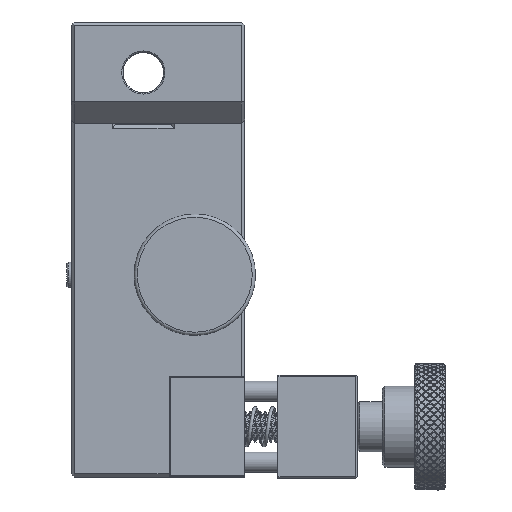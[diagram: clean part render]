
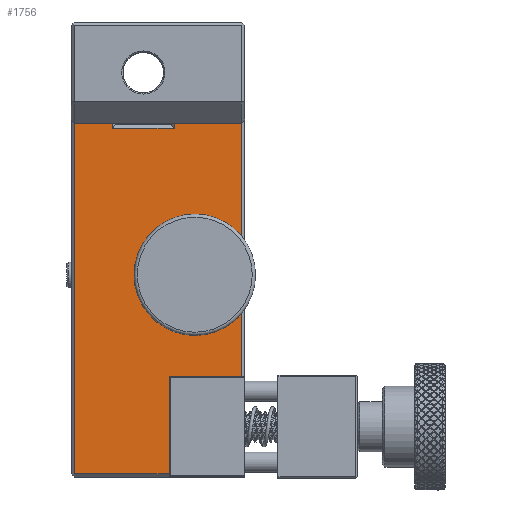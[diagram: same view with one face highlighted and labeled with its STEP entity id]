
A CAD part, top view. The second image highlights one B-rep face of the part: STEP entity #1756.
In plain terms, the highlighted planar face has unit normal (0, 0, 1).
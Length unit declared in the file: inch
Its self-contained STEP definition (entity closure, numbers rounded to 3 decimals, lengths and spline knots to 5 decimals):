
#928=CARTESIAN_POINT('',(93.06902,136.21656,7.1165));
#929=VERTEX_POINT('',#928);
#936=CARTESIAN_POINT('',(93.05902,136.20656,7.1165));
#937=VERTEX_POINT('',#936);
#938=CARTESIAN_POINT('',(93.05902,136.20656,7.1165));
#939=DIRECTION('',(0.707,0.707,0.0));
#940=VECTOR('',#939,0.01414);
#941=LINE('',#938,#940);
#942=EDGE_CURVE('',#929,#937,#941,.F.);
#990=CARTESIAN_POINT('',(93.05902,135.45856,7.1165));
#991=VERTEX_POINT('',#990);
#992=CARTESIAN_POINT('',(93.05902,135.45856,7.1165));
#993=DIRECTION('',(0.0,1.0,0.0));
#994=VECTOR('',#993,0.748);
#995=LINE('',#992,#994);
#996=EDGE_CURVE('',#991,#937,#995,.T.);
#1038=CARTESIAN_POINT('',(93.09887,138.14856,7.1165));
#1039=VERTEX_POINT('',#1038);
#1048=CARTESIAN_POINT('',(92.61817,138.14856,7.1165));
#1049=VERTEX_POINT('',#1048);
#1057=CARTESIAN_POINT('',(92.61817,138.14856,7.1165));
#1058=DIRECTION('',(1.0,0.0,0.0));
#1059=VECTOR('',#1058,0.4807);
#1060=LINE('',#1057,#1059);
#1061=EDGE_CURVE('',#1049,#1039,#1060,.T.);
#1167=CARTESIAN_POINT('',(92.32152,138.18606,7.1165));
#1168=VERTEX_POINT('',#1167);
#1228=CARTESIAN_POINT('',(92.32152,135.45856,7.1165));
#1229=VERTEX_POINT('',#1228);
#1238=CARTESIAN_POINT('',(92.32152,135.45856,7.1165));
#1239=DIRECTION('',(0.0,1.0,0.0));
#1240=VECTOR('',#1239,2.7275);
#1241=LINE('',#1238,#1240);
#1242=EDGE_CURVE('',#1229,#1168,#1241,.T.);
#1268=CARTESIAN_POINT('',(93.05902,135.45856,7.1165));
#1269=DIRECTION('',(-1.0,0.0,0.0));
#1270=VECTOR('',#1269,0.7375);
#1271=LINE('',#1268,#1270);
#1272=EDGE_CURVE('',#991,#1229,#1271,.T.);
#1471=CARTESIAN_POINT('',(93.11176,138.18606,7.1165));
#1472=VERTEX_POINT('',#1471);
#1473=CARTESIAN_POINT('',(92.60528,138.18606,7.1165));
#1474=VERTEX_POINT('',#1473);
#1482=CARTESIAN_POINT('',(93.62152,138.18606,7.1165));
#1483=VERTEX_POINT('',#1482);
#1484=CARTESIAN_POINT('',(93.62152,138.18606,7.1165));
#1485=DIRECTION('',(-1.0,0.0,0.0));
#1486=VECTOR('',#1485,0.50976);
#1487=LINE('',#1484,#1486);
#1488=EDGE_CURVE('',#1483,#1472,#1487,.T.);
#1498=CARTESIAN_POINT('',(92.60528,138.18606,7.1165));
#1499=DIRECTION('',(-1.0,0.0,0.0));
#1500=VECTOR('',#1499,0.28376);
#1501=LINE('',#1498,#1500);
#1502=EDGE_CURVE('',#1474,#1168,#1501,.T.);
#1569=CARTESIAN_POINT('',(93.62152,136.21656,7.1165));
#1570=VERTEX_POINT('',#1569);
#1571=CARTESIAN_POINT('',(93.62152,138.18606,7.1165));
#1572=DIRECTION('',(0.0,-1.0,0.0));
#1573=VECTOR('',#1572,1.9695);
#1574=LINE('',#1571,#1573);
#1575=EDGE_CURVE('',#1483,#1570,#1574,.T.);
#1682=CARTESIAN_POINT('',(92.97152,137.20356,7.1165));
#1683=DIRECTION('',(0.0,0.0,1.0));
#1684=DIRECTION('',(-1.0,0.0,0.0));
#1685=AXIS2_PLACEMENT_3D('',#1682,#1683,#1684);
#1686=PLANE('',#1685);
#1687=ORIENTED_EDGE('',*,*,#942,.F.);
#1688=CARTESIAN_POINT('',(93.06902,136.21656,7.1165));
#1689=DIRECTION('',(1.0,0.0,0.0));
#1690=VECTOR('',#1689,0.5525);
#1691=LINE('',#1688,#1690);
#1692=EDGE_CURVE('',#929,#1570,#1691,.T.);
#1693=ORIENTED_EDGE('',*,*,#1692,.T.);
#1694=ORIENTED_EDGE('',*,*,#1575,.F.);
#1695=ORIENTED_EDGE('',*,*,#1488,.T.);
#1696=CARTESIAN_POINT('',(93.09887,138.19606,7.1165));
#1697=VERTEX_POINT('',#1696);
#1698=CARTESIAN_POINT('',(93.11176,138.18606,7.1165));
#1699=CARTESIAN_POINT('',(93.10521,138.19119,7.1165));
#1700=CARTESIAN_POINT('',(93.09887,138.19606,7.1165));
#1708=(BOUNDED_CURVE()B_SPLINE_CURVE(2,(#1698,#1699,#1700),.UNSPECIFIED.,.F.,.U.)B_SPLINE_CURVE_WITH_KNOTS((3,3),(0.0,0.01631),.UNSPECIFIED.)CURVE()GEOMETRIC_REPRESENTATION_ITEM()RATIONAL_B_SPLINE_CURVE((1.0,1.,1.0))REPRESENTATION_ITEM(''));
#1709=EDGE_CURVE('',#1697,#1472,#1708,.F.);
#1710=ORIENTED_EDGE('',*,*,#1709,.F.);
#1711=CARTESIAN_POINT('',(93.09887,138.19606,7.1165));
#1712=DIRECTION('',(0.0,-1.0,0.0));
#1713=VECTOR('',#1712,0.0475);
#1714=LINE('',#1711,#1713);
#1715=EDGE_CURVE('',#1697,#1039,#1714,.T.);
#1716=ORIENTED_EDGE('',*,*,#1715,.T.);
#1717=ORIENTED_EDGE('',*,*,#1061,.F.);
#1718=CARTESIAN_POINT('',(92.61817,138.19606,7.1165));
#1719=VERTEX_POINT('',#1718);
#1720=CARTESIAN_POINT('',(92.61817,138.14856,7.1165));
#1721=DIRECTION('',(0.0,1.0,0.0));
#1722=VECTOR('',#1721,0.0475);
#1723=LINE('',#1720,#1722);
#1724=EDGE_CURVE('',#1049,#1719,#1723,.T.);
#1725=ORIENTED_EDGE('',*,*,#1724,.T.);
#1726=CARTESIAN_POINT('',(92.61817,138.19606,7.1165));
#1727=CARTESIAN_POINT('',(92.61183,138.19119,7.1165));
#1728=CARTESIAN_POINT('',(92.60528,138.18606,7.1165));
#1736=(BOUNDED_CURVE()B_SPLINE_CURVE(2,(#1726,#1727,#1728),.UNSPECIFIED.,.F.,.U.)B_SPLINE_CURVE_WITH_KNOTS((3,3),(0.0,0.01631),.UNSPECIFIED.)CURVE()GEOMETRIC_REPRESENTATION_ITEM()RATIONAL_B_SPLINE_CURVE((1.0,1.,1.0))REPRESENTATION_ITEM(''));
#1737=EDGE_CURVE('',#1474,#1719,#1736,.F.);
#1738=ORIENTED_EDGE('',*,*,#1737,.F.);
#1739=ORIENTED_EDGE('',*,*,#1502,.T.);
#1740=ORIENTED_EDGE('',*,*,#1242,.F.);
#1741=ORIENTED_EDGE('',*,*,#1272,.F.);
#1742=ORIENTED_EDGE('',*,*,#996,.T.);
#1743=EDGE_LOOP('',(#1687,#1693,#1694,#1695,#1710,#1716,#1717,#1725,#1738,#1739,#1740,#1741,#1742));
#1744=FACE_OUTER_BOUND('',#1743,.T.);
#1745=CARTESIAN_POINT('',(93.50552,137.00706,7.1165));
#1746=VERTEX_POINT('',#1745);
#1747=CARTESIAN_POINT('',(93.25902,137.00706,7.1165));
#1748=DIRECTION('',(0.0,0.0,1.0));
#1749=DIRECTION('',(-1.0,0.0,0.0));
#1750=AXIS2_PLACEMENT_3D('',#1747,#1748,#1749);
#1751=CIRCLE('',#1750,0.2465);
#1752=EDGE_CURVE('',#1746,#1746,#1751,.T.);
#1753=ORIENTED_EDGE('',*,*,#1752,.F.);
#1754=EDGE_LOOP('',(#1753));
#1755=FACE_BOUND('',#1754,.T.);
#1756=ADVANCED_FACE('',(#1744,#1755),#1686,.T.);
